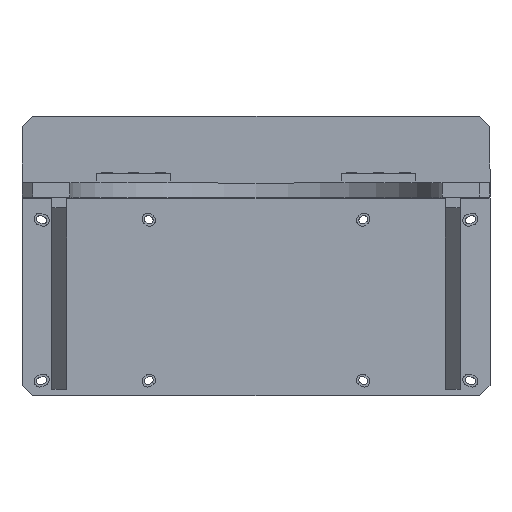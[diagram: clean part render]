
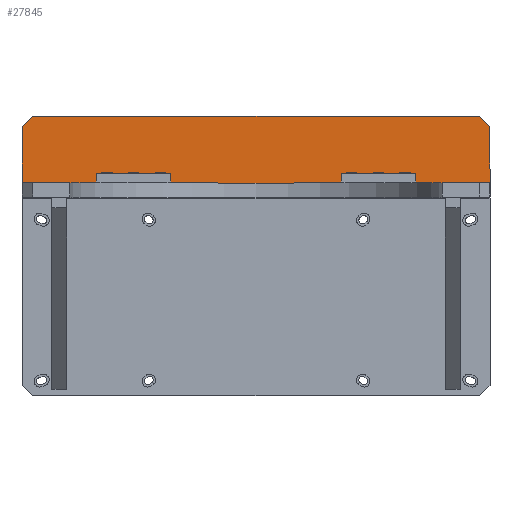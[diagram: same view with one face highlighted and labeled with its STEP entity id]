
A CAD part, top view. The second image highlights one B-rep face of the part: STEP entity #27845.
In plain terms, the highlighted planar face has unit normal (0, 0, 1).
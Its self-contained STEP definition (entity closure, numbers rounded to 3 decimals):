
#9416=CARTESIAN_POINT('',(80.,100.0,14.));
#9417=VERTEX_POINT('',#9416);
#9432=CARTESIAN_POINT('',(80.,109.0,14.));
#9433=VERTEX_POINT('',#9432);
#9440=CARTESIAN_POINT('',(80.,100.0,14.));
#9441=DIRECTION('',(0.0,1.0,0.0));
#9442=VECTOR('',#9441,9.0);
#9443=LINE('',#9440,#9442);
#9444=EDGE_CURVE('',#9417,#9433,#9443,.T.);
#9454=CARTESIAN_POINT('',(150.,100.,14.0));
#9455=VERTEX_POINT('',#9454);
#9464=CARTESIAN_POINT('',(150.,109.,14.0));
#9465=VERTEX_POINT('',#9464);
#9466=CARTESIAN_POINT('',(150.,109.,14.));
#9467=DIRECTION('',(0.0,-1.0,0.0));
#9468=VECTOR('',#9467,9.);
#9469=LINE('',#9466,#9468);
#9470=EDGE_CURVE('',#9465,#9455,#9469,.T.);
#9518=CARTESIAN_POINT('',(80.,109.,14.));
#9519=DIRECTION('',(1.0,0.0,0.0));
#9520=VECTOR('',#9519,70.);
#9521=LINE('',#9518,#9520);
#9522=EDGE_CURVE('',#9433,#9465,#9521,.T.);
#9548=CARTESIAN_POINT('',(-80.,100.,14.));
#9549=VERTEX_POINT('',#9548);
#9550=CARTESIAN_POINT('',(-80.,100.,14.0));
#9551=DIRECTION('',(1.0,0.0,0.0));
#9552=VECTOR('',#9551,160.);
#9553=LINE('',#9550,#9552);
#9554=EDGE_CURVE('',#9549,#9417,#9553,.T.);
#9572=CARTESIAN_POINT('',(-150.,100.,14.));
#9573=VERTEX_POINT('',#9572);
#9580=CARTESIAN_POINT('',(-220.,100.,14.));
#9581=VERTEX_POINT('',#9580);
#9582=CARTESIAN_POINT('',(-220.,100.,14.0));
#9583=DIRECTION('',(1.0,0.0,0.0));
#9584=VECTOR('',#9583,70.);
#9585=LINE('',#9582,#9584);
#9586=EDGE_CURVE('',#9581,#9573,#9585,.T.);
#9653=CARTESIAN_POINT('',(220.,100.,14.));
#9654=VERTEX_POINT('',#9653);
#9661=CARTESIAN_POINT('',(150.,100.,14.0));
#9662=DIRECTION('',(1.0,0.0,0.0));
#9663=VECTOR('',#9662,70.0);
#9664=LINE('',#9661,#9663);
#9665=EDGE_CURVE('',#9455,#9654,#9664,.T.);
#12363=CARTESIAN_POINT('',(-150.,109.,14.));
#12364=VERTEX_POINT('',#12363);
#12371=CARTESIAN_POINT('',(-150.,100.,14.));
#12372=DIRECTION('',(0.0,1.0,0.0));
#12373=VECTOR('',#12372,9.);
#12374=LINE('',#12371,#12373);
#12375=EDGE_CURVE('',#9573,#12364,#12374,.T.);
#12386=CARTESIAN_POINT('',(-80.,109.,14.));
#12387=VERTEX_POINT('',#12386);
#12388=CARTESIAN_POINT('',(-80.,109.,14.));
#12389=DIRECTION('',(0.0,-1.0,0.0));
#12390=VECTOR('',#12389,9.0);
#12391=LINE('',#12388,#12390);
#12392=EDGE_CURVE('',#12387,#9549,#12391,.T.);
#12435=CARTESIAN_POINT('',(-150.,109.,14.));
#12436=DIRECTION('',(1.0,0.0,0.0));
#12437=VECTOR('',#12436,70.0);
#12438=LINE('',#12435,#12437);
#12439=EDGE_CURVE('',#12364,#12387,#12438,.T.);
#14178=CARTESIAN_POINT('',(220.,153.,14.));
#14179=VERTEX_POINT('',#14178);
#14188=CARTESIAN_POINT('',(220.,100.,14.));
#14189=DIRECTION('',(0.0,1.0,0.0));
#14190=VECTOR('',#14189,53.);
#14191=LINE('',#14188,#14190);
#14192=EDGE_CURVE('',#9654,#14179,#14191,.T.);
#14243=CARTESIAN_POINT('',(-220.0,153.,14.));
#14244=VERTEX_POINT('',#14243);
#14290=CARTESIAN_POINT('',(-220.0,100.,14.));
#14291=DIRECTION('',(0.0,1.0,0.0));
#14292=VECTOR('',#14291,53.);
#14293=LINE('',#14290,#14292);
#14294=EDGE_CURVE('',#9581,#14244,#14293,.T.);
#16323=CARTESIAN_POINT('',(210.0,163.,14.));
#16324=VERTEX_POINT('',#16323);
#16331=CARTESIAN_POINT('',(210.,163.,14.));
#16332=DIRECTION('',(0.707,-0.707,0.0));
#16333=VECTOR('',#16332,14.142);
#16334=LINE('',#16331,#16333);
#16335=EDGE_CURVE('',#16324,#14179,#16334,.T.);
#16453=CARTESIAN_POINT('',(-210.0,163.,14.));
#16454=VERTEX_POINT('',#16453);
#16455=CARTESIAN_POINT('',(-220.0,153.0,14.));
#16456=DIRECTION('',(0.707,0.707,0.0));
#16457=VECTOR('',#16456,14.142);
#16458=LINE('',#16455,#16457);
#16459=EDGE_CURVE('',#14244,#16454,#16458,.T.);
#16874=CARTESIAN_POINT('',(-210.0,163.,14.));
#16875=DIRECTION('',(1.0,0.0,0.0));
#16876=VECTOR('',#16875,420.0);
#16877=LINE('',#16874,#16876);
#16878=EDGE_CURVE('',#16454,#16324,#16877,.T.);
#27824=CARTESIAN_POINT('',(0.,0.0,14.));
#27825=DIRECTION('',(0.0,0.0,1.0));
#27826=DIRECTION('',(1.0,0.0,0.0));
#27827=AXIS2_PLACEMENT_3D('',#27824,#27825,#27826);
#27828=PLANE('',#27827);
#27829=ORIENTED_EDGE('',*,*,#9470,.T.);
#27830=ORIENTED_EDGE('',*,*,#9665,.T.);
#27831=ORIENTED_EDGE('',*,*,#14192,.T.);
#27832=ORIENTED_EDGE('',*,*,#16335,.F.);
#27833=ORIENTED_EDGE('',*,*,#16878,.F.);
#27834=ORIENTED_EDGE('',*,*,#16459,.F.);
#27835=ORIENTED_EDGE('',*,*,#14294,.F.);
#27836=ORIENTED_EDGE('',*,*,#9586,.T.);
#27837=ORIENTED_EDGE('',*,*,#12375,.T.);
#27838=ORIENTED_EDGE('',*,*,#12439,.T.);
#27839=ORIENTED_EDGE('',*,*,#12392,.T.);
#27840=ORIENTED_EDGE('',*,*,#9554,.T.);
#27841=ORIENTED_EDGE('',*,*,#9444,.T.);
#27842=ORIENTED_EDGE('',*,*,#9522,.T.);
#27843=EDGE_LOOP('',(#27829,#27830,#27831,#27832,#27833,#27834,#27835,#27836,#27837,#27838,#27839,#27840,#27841,#27842));
#27844=FACE_OUTER_BOUND('',#27843,.T.);
#27845=ADVANCED_FACE('',(#27844),#27828,.T.);
